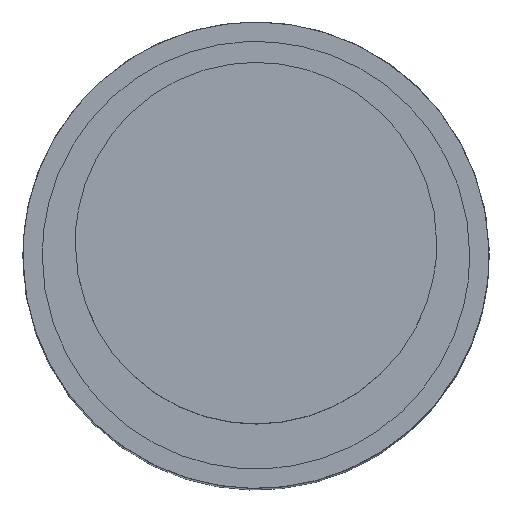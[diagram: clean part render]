
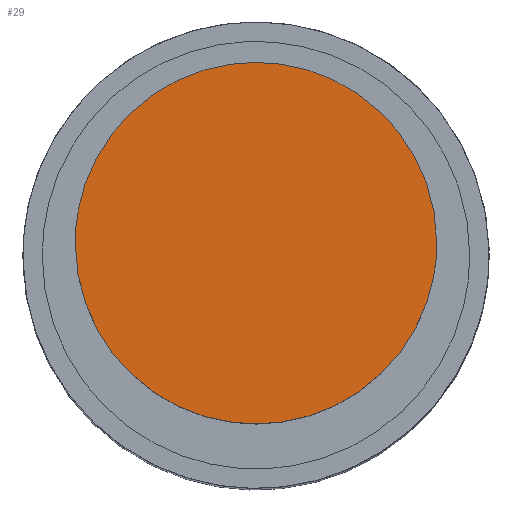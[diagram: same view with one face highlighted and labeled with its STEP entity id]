
A CAD part, top view. The second image highlights one B-rep face of the part: STEP entity #29.
In plain terms, the highlighted planar face has unit normal (0, 0, 1).
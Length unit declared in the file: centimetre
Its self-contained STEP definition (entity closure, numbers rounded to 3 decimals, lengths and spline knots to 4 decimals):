
#29=ADVANCED_FACE('',(#44),#183,.T.);
#44=FACE_OUTER_BOUND('',#59,.T.);
#59=EDGE_LOOP('',(#85,#86));
#85=ORIENTED_EDGE('',*,*,#122,.T.);
#86=ORIENTED_EDGE('',*,*,#125,.T.);
#122=EDGE_CURVE('',#169,#171,#147,.T.);
#125=EDGE_CURVE('',#171,#169,#150,.T.);
#147=(
BOUNDED_CURVE()
B_SPLINE_CURVE(2,(#370,#371,#372,#373,#374),.UNSPECIFIED.,.F.,.F.)
B_SPLINE_CURVE_WITH_KNOTS((3,2,3),(0.,73.042,146.0841),
 .UNSPECIFIED.)
CURVE()
GEOMETRIC_REPRESENTATION_ITEM()
RATIONAL_B_SPLINE_CURVE((1.,0.707,1.,0.707,1.))
REPRESENTATION_ITEM('')
);
#150=(
BOUNDED_CURVE()
B_SPLINE_CURVE(2,(#382,#383,#384,#385,#386),.UNSPECIFIED.,.F.,.F.)
B_SPLINE_CURVE_WITH_KNOTS((3,2,3),(146.0841,219.1261,292.1681),
 .UNSPECIFIED.)
CURVE()
GEOMETRIC_REPRESENTATION_ITEM()
RATIONAL_B_SPLINE_CURVE((1.,0.707,1.,0.707,1.))
REPRESENTATION_ITEM('')
);
#169=VERTEX_POINT('',#360);
#171=VERTEX_POINT('',#362);
#183=PLANE('',#289);
#289=AXIS2_PLACEMENT_3D('',#356,#308,$);
#308=DIRECTION('',(0.,0.,1.));
#356=CARTESIAN_POINT('',(-912.1494,875.2077,2019.5));
#360=CARTESIAN_POINT('',(-818.2194,922.6377,2019.5));
#362=CARTESIAN_POINT('',(-911.2194,922.6377,2019.5));
#370=CARTESIAN_POINT('',(-818.2194,922.6377,2019.5));
#371=CARTESIAN_POINT('',(-818.2194,969.1377,2019.5));
#372=CARTESIAN_POINT('',(-864.7194,969.1377,2019.5));
#373=CARTESIAN_POINT('',(-911.2194,969.1377,2019.5));
#374=CARTESIAN_POINT('',(-911.2194,922.6377,2019.5));
#382=CARTESIAN_POINT('',(-911.2194,922.6377,2019.5));
#383=CARTESIAN_POINT('',(-911.2194,876.1377,2019.5));
#384=CARTESIAN_POINT('',(-864.7194,876.1377,2019.5));
#385=CARTESIAN_POINT('',(-818.2194,876.1377,2019.5));
#386=CARTESIAN_POINT('',(-818.2194,922.6377,2019.5));
